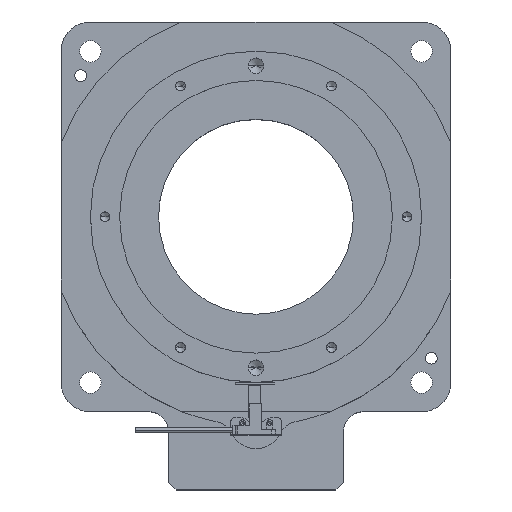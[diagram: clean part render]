
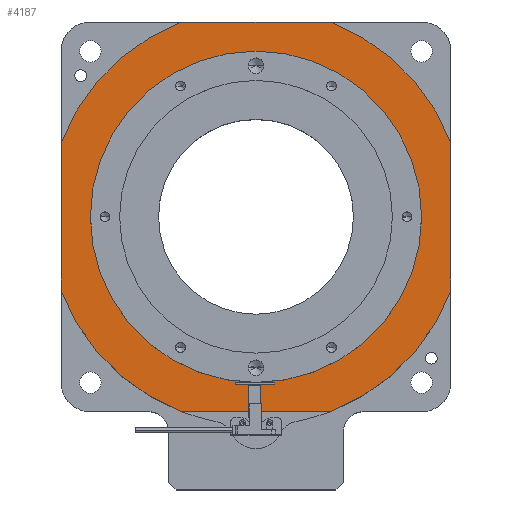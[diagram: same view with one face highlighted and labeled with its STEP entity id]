
A CAD part, top view. The second image highlights one B-rep face of the part: STEP entity #4187.
In plain terms, the highlighted planar face has unit normal (0, 0, 1).
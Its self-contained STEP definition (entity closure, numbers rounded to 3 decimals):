
#47 = CARTESIAN_POINT ( 'NONE',  ( 0.635, 8.49, 36. ) ) ;
#81 = ORIENTED_EDGE ( 'NONE', *, *, #4079, .T. ) ;
#166 = VERTEX_POINT ( 'NONE', #7098 ) ;
#361 = LINE ( 'NONE', #2837, #2198 ) ;
#468 = CARTESIAN_POINT ( 'NONE',  ( 0.635, -11.51, 36. ) ) ;
#551 = DIRECTION ( 'NONE',  ( 1., 0., 0. ) ) ;
#611 = CARTESIAN_POINT ( 'NONE',  ( 0.635, 8.49, 36. ) ) ;
#646 = DIRECTION ( 'NONE',  ( 0., 0., 1. ) ) ;
#920 = CARTESIAN_POINT ( 'NONE',  ( 38.701, -91.51, 36. ) ) ;
#987 = ORIENTED_EDGE ( 'NONE', *, *, #1234, .T. ) ;
#1001 = CARTESIAN_POINT ( 'NONE',  ( -37.43, 108.49, 36. ) ) ;
#1008 = DIRECTION ( 'NONE',  ( 1., 0., 0. ) ) ;
#1111 = ORIENTED_EDGE ( 'NONE', *, *, #3083, .F. ) ;
#1147 = CIRCLE ( 'NONE', #7661, 85. ) ;
#1234 = EDGE_CURVE ( 'NONE', #2375, #5676, #3043, .T. ) ;
#1243 = EDGE_CURVE ( 'NONE', #7634, #7894, #3207, .T. ) ;
#1596 = CIRCLE ( 'NONE', #6169, 107. ) ;
#1720 = VECTOR ( 'NONE', #5204, 1000. ) ;
#1795 = VERTEX_POINT ( 'NONE', #7049 ) ;
#1825 = CIRCLE ( 'NONE', #7823, 107. ) ;
#1987 = DIRECTION ( 'NONE',  ( 0., 0., 1. ) ) ;
#2054 = LINE ( 'NONE', #4553, #4306 ) ;
#2198 = VECTOR ( 'NONE', #7624, 1000. ) ;
#2216 = AXIS2_PLACEMENT_3D ( 'NONE', #3202, #646, #2590 ) ;
#2286 = AXIS2_PLACEMENT_3D ( 'NONE', #2345, #4154, #1008 ) ;
#2345 = CARTESIAN_POINT ( 'NONE',  ( 0.635, 8.49, 36. ) ) ;
#2346 = CARTESIAN_POINT ( 'NONE',  ( -84.365, 8.49, 36. ) ) ;
#2375 = VERTEX_POINT ( 'NONE', #1001 ) ;
#2481 = DIRECTION ( 'NONE',  ( 0., 1., 0. ) ) ;
#2540 = CARTESIAN_POINT ( 'NONE',  ( 85.635, 8.49, 36. ) ) ;
#2590 = DIRECTION ( 'NONE',  ( 1., 0., 0. ) ) ;
#2837 = CARTESIAN_POINT ( 'NONE',  ( -84.365, 108.49, 36. ) ) ;
#2905 = ORIENTED_EDGE ( 'NONE', *, *, #7431, .F. ) ;
#2908 = DIRECTION ( 'NONE',  ( 0., 0., 1. ) ) ;
#2935 = ORIENTED_EDGE ( 'NONE', *, *, #5131, .T. ) ;
#2969 = ORIENTED_EDGE ( 'NONE', *, *, #5283, .T. ) ;
#2998 = EDGE_LOOP ( 'NONE', ( #2905, #1111 ) ) ;
#3043 = CIRCLE ( 'NONE', #8018, 107. ) ;
#3068 = FACE_BOUND ( 'NONE', #2998, .T. ) ;
#3083 = EDGE_CURVE ( 'NONE', #5394, #4355, #7119, .T. ) ;
#3202 = CARTESIAN_POINT ( 'NONE',  ( 0.635, 8.49, 36. ) ) ;
#3207 = LINE ( 'NONE', #8055, #6187 ) ;
#3269 = VERTEX_POINT ( 'NONE', #7202 ) ;
#3725 = DIRECTION ( 'NONE',  ( 0., 0., 1. ) ) ;
#3783 = DIRECTION ( 'NONE',  ( 1., 0., 0. ) ) ;
#3932 = EDGE_CURVE ( 'NONE', #6946, #1795, #5017, .T. ) ;
#4079 = EDGE_CURVE ( 'NONE', #3269, #1795, #1596, .T. ) ;
#4154 = DIRECTION ( 'NONE',  ( 0., 0., 1. ) ) ;
#4156 = EDGE_LOOP ( 'NONE', ( #4765, #2935, #5365, #7042, #2969, #987, #6714, #81 ) ) ;
#4187 = ADVANCED_FACE ( 'NONE', ( #3068, #6064 ), #7951, .T. ) ;
#4229 = DIRECTION ( 'NONE',  ( 0., -1., 0. ) ) ;
#4306 = VECTOR ( 'NONE', #4229, 1000. ) ;
#4355 = VERTEX_POINT ( 'NONE', #2540 ) ;
#4553 = CARTESIAN_POINT ( 'NONE',  ( -99.365, 93.49, 36. ) ) ;
#4765 = ORIENTED_EDGE ( 'NONE', *, *, #3932, .F. ) ;
#4820 = AXIS2_PLACEMENT_3D ( 'NONE', #468, #3725, #6801 ) ;
#5017 = LINE ( 'NONE', #6274, #1720 ) ;
#5018 = DIRECTION ( 'NONE',  ( 0., 0., 1. ) ) ;
#5022 = DIRECTION ( 'NONE',  ( 1., 0., 0. ) ) ;
#5131 = EDGE_CURVE ( 'NONE', #6946, #7634, #5993, .T. ) ;
#5136 = EDGE_CURVE ( 'NONE', #7894, #166, #1825, .T. ) ;
#5204 = DIRECTION ( 'NONE',  ( -1., 0., 0. ) ) ;
#5250 = CARTESIAN_POINT ( 'NONE',  ( -99.365, 46.555, 36. ) ) ;
#5283 = EDGE_CURVE ( 'NONE', #166, #2375, #361, .T. ) ;
#5334 = EDGE_CURVE ( 'NONE', #5676, #3269, #2054, .T. ) ;
#5365 = ORIENTED_EDGE ( 'NONE', *, *, #1243, .T. ) ;
#5371 = DIRECTION ( 'NONE',  ( 0., 0., 1. ) ) ;
#5394 = VERTEX_POINT ( 'NONE', #2346 ) ;
#5676 = VERTEX_POINT ( 'NONE', #5250 ) ;
#5943 = DIRECTION ( 'NONE',  ( 1., 0., 0. ) ) ;
#5993 = CIRCLE ( 'NONE', #2216, 107. ) ;
#6019 = CARTESIAN_POINT ( 'NONE',  ( 0.635, 8.49, 36. ) ) ;
#6064 = FACE_OUTER_BOUND ( 'NONE', #4156, .T. ) ;
#6169 = AXIS2_PLACEMENT_3D ( 'NONE', #6019, #2908, #5943 ) ;
#6187 = VECTOR ( 'NONE', #2481, 1000. ) ;
#6274 = CARTESIAN_POINT ( 'NONE',  ( -58.679, -91.51, 36. ) ) ;
#6603 = CARTESIAN_POINT ( 'NONE',  ( 0.635, 8.49, 36. ) ) ;
#6714 = ORIENTED_EDGE ( 'NONE', *, *, #5334, .T. ) ;
#6801 = DIRECTION ( 'NONE',  ( 1., 0., 0. ) ) ;
#6879 = CARTESIAN_POINT ( 'NONE',  ( 100.635, -29.576, 36. ) ) ;
#6946 = VERTEX_POINT ( 'NONE', #920 ) ;
#7042 = ORIENTED_EDGE ( 'NONE', *, *, #5136, .T. ) ;
#7049 = CARTESIAN_POINT ( 'NONE',  ( -37.43, -91.51, 36. ) ) ;
#7098 = CARTESIAN_POINT ( 'NONE',  ( 38.701, 108.49, 36. ) ) ;
#7119 = CIRCLE ( 'NONE', #2286, 85. ) ;
#7202 = CARTESIAN_POINT ( 'NONE',  ( -99.365, -29.576, 36. ) ) ;
#7431 = EDGE_CURVE ( 'NONE', #4355, #5394, #1147, .T. ) ;
#7624 = DIRECTION ( 'NONE',  ( -1., 0., 0. ) ) ;
#7634 = VERTEX_POINT ( 'NONE', #6879 ) ;
#7661 = AXIS2_PLACEMENT_3D ( 'NONE', #6603, #5371, #551 ) ;
#7823 = AXIS2_PLACEMENT_3D ( 'NONE', #47, #5018, #3783 ) ;
#7861 = CARTESIAN_POINT ( 'NONE',  ( 100.635, 46.555, 36. ) ) ;
#7894 = VERTEX_POINT ( 'NONE', #7861 ) ;
#7951 = PLANE ( 'NONE',  #4820 ) ;
#8018 = AXIS2_PLACEMENT_3D ( 'NONE', #611, #1987, #5022 ) ;
#8055 = CARTESIAN_POINT ( 'NONE',  ( 100.635, 93.49, 36. ) ) ;
